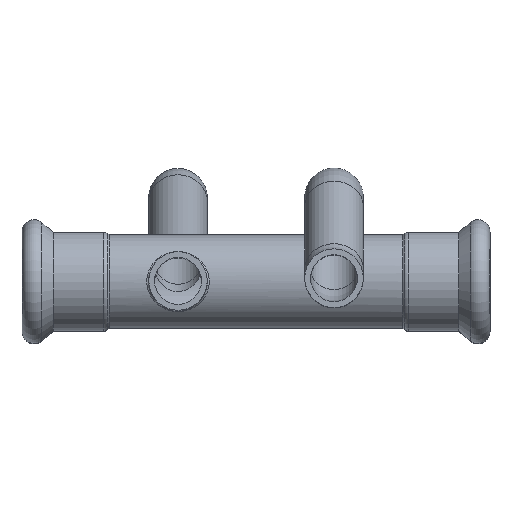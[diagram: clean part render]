
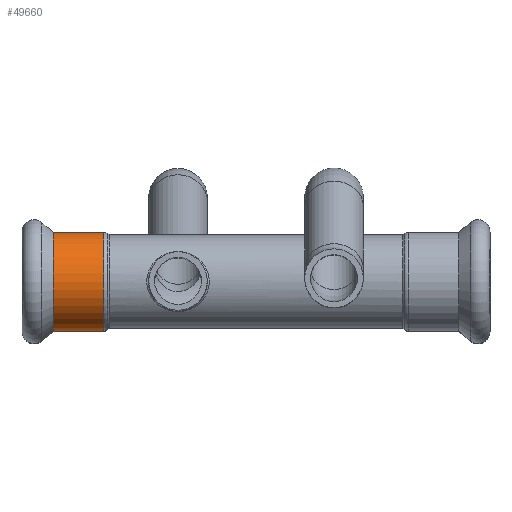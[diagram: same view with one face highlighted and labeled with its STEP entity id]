
A CAD part, top view. The second image highlights one B-rep face of the part: STEP entity #49660.
In plain terms, the highlighted cylindrical face has radius 12.65 mm (diameter 25.3 mm), a partial arc.
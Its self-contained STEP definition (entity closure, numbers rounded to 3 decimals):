
#9080=CARTESIAN_POINT('',(-77.003,133.061,
0.));
#9090=VERTEX_POINT('',#9080);
#9170=CARTESIAN_POINT('',(-77.003,158.361,0.));
#9180=VERTEX_POINT('',#9170);
#9210=CARTESIAN_POINT('',(-77.003,145.711,0.));
#9220=DIRECTION('',(1.,0.,0.));
#9230=DIRECTION('',(-0.,-1.,-0.));
#9240=AXIS2_PLACEMENT_3D('',#9210,#9220,#9230);
#9250=CIRCLE('',#9240,12.65);
#9310=CARTESIAN_POINT('',(-70.524,145.711,0.));
#9320=DIRECTION('',(1.,0.,0.));
#9330=DIRECTION('',(-0.,-1.,-0.));
#9340=AXIS2_PLACEMENT_3D('',#9310,#9320,#9330);
#9350=CYLINDRICAL_SURFACE('',#9340,12.65);
#9360=CARTESIAN_POINT('',(-70.524,133.061,0.));
#9370=DIRECTION('',(1.,0.,0.));
#9380=VECTOR('',#9370,1.);
#9390=LINE('',#9360,#9380);
#9400=CARTESIAN_POINT('',(-64.045,133.061,0.));
#9410=VERTEX_POINT('',#9400);
#9420=EDGE_CURVE('',#9090,#9410,#9390,.T.);
#9450=CARTESIAN_POINT('',(-70.524,158.361,
0.));
#9460=DIRECTION('',(1.,0.,0.));
#9470=VECTOR('',#9460,1.);
#9480=LINE('',#9450,#9470);
#9490=CARTESIAN_POINT('',(-64.045,158.361,0.));
#9500=VERTEX_POINT('',#9490);
#9510=EDGE_CURVE('',#9180,#9500,#9480,.T.);
#9530=CARTESIAN_POINT('',(-64.045,145.711,0.));
#9540=DIRECTION('',(1.,0.,0.));
#9550=DIRECTION('',(-0.,-1.,-0.));
#9560=AXIS2_PLACEMENT_3D('',#9530,#9540,#9550);
#9570=CIRCLE('',#9560,12.65);
#49580=EDGE_CURVE('',#9410,#9500,#9570,.T.);
#49590=ORIENTED_EDGE('',*,*,#49580,.F.);
#49600=ORIENTED_EDGE('',*,*,#9510,.T.);
#49610=EDGE_CURVE('',#9090,#9180,#9250,.T.);
#49620=ORIENTED_EDGE('',*,*,#49610,.T.);
#49630=ORIENTED_EDGE('',*,*,#9420,.F.);
#49640=EDGE_LOOP('',(#49630,#49620,#49600,#49590));
#49650=FACE_OUTER_BOUND('',#49640,.T.);
#49660=ADVANCED_FACE('',(#49650),#9350,.T.);
